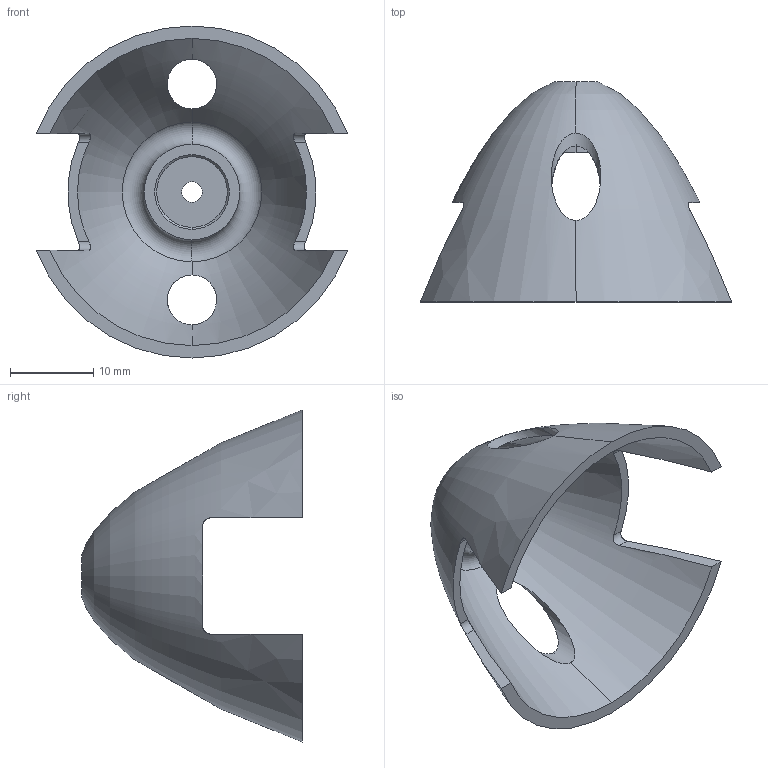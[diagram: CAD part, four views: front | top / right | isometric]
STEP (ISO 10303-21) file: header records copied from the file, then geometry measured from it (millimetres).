
FILE_DESCRIPTION((''),'2;1');
FILE_NAME('SPINNER','2014-10-23T',('Vince'),(''),'PRO/ENGINEER BY PARAMETRIC TECHNOLOGY CORPORATION, 2010480','PRO/ENGINEER BY PARAMETRIC TECHNOLOGY CORPORATION, 2010480','');
FILE_SCHEMA(('CONFIG_CONTROL_DESIGN'));
Length unit declared in the file: millimetre
Products named in the file (1): SPINNER
Bounding box: 37.47 x 26.55 x 40 mm (x, y, z)
Volume: 2750.7 mm3; surface area: 4496.6 mm2
Topology: 1 solids, 1 shells, 37 faces, 109 edges, 76 vertices
Faces by surface type: cylinder 16, plane 11, revolution 4, cone 4, torus 2
Entity records: 1593 total; most frequent: CARTESIAN_POINT 608, ORIENTED_EDGE 208, DIRECTION 177, EDGE_CURVE 104, AXIS2_PLACEMENT_3D 70, VERTEX_POINT 66, B_SPLINE_CURVE_WITH_KNOTS 44, EDGE_LOOP 40
